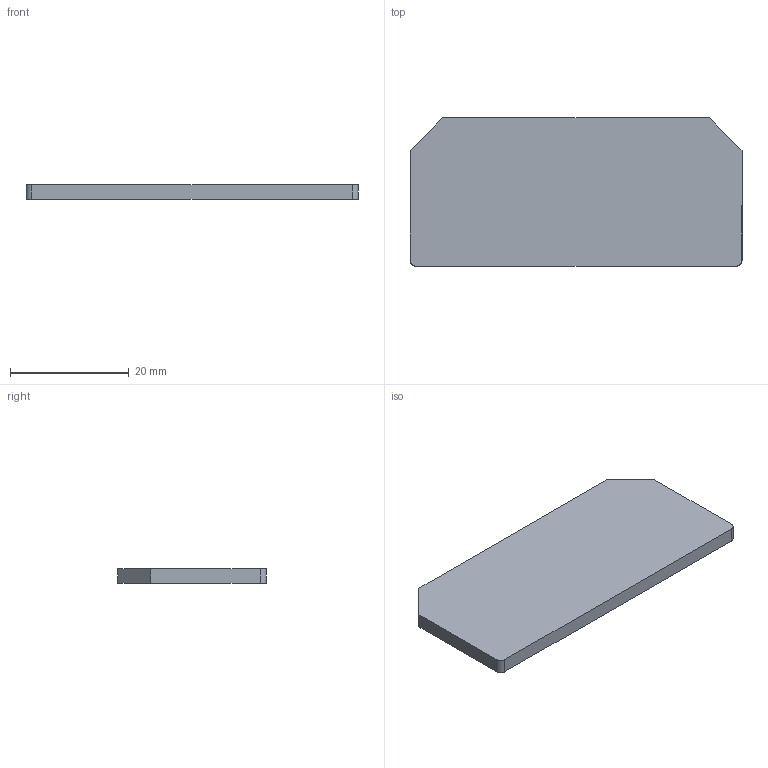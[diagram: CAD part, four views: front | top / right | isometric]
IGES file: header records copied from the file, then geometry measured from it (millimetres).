
Global section: file name: 2770794_dp_ukk3-5_select.igs; native system: OneSpace Designer 3D IGES; preprocessor: 12.01C  26-Mar-2004; date: 20040825.064315; units: millimetre
Bounding box: 56 x 25 x 2.5 mm (x, y, z)
Surface area: 3125.6 mm2 (no closed solid volume)
Topology: 0 solids, 0 shells, 10 faces, 64 edges, 64 vertices
Faces by surface type: bspline 10
